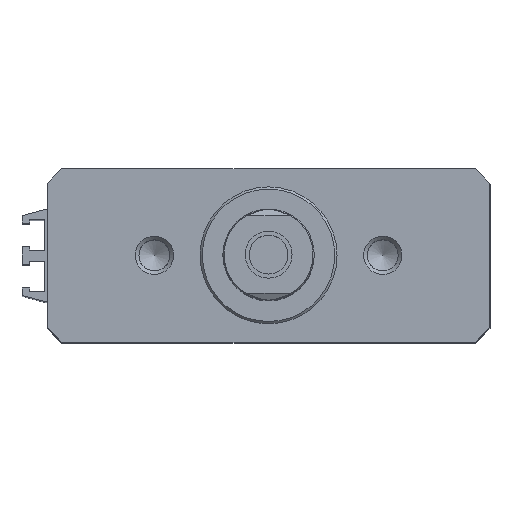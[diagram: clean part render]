
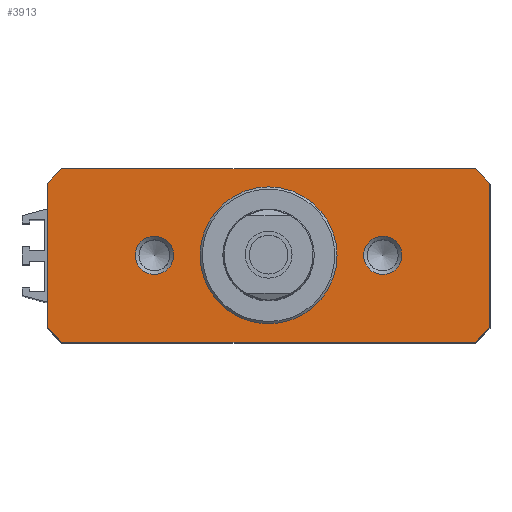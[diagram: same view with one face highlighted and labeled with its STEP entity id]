
A CAD part, top view. The second image highlights one B-rep face of the part: STEP entity #3913.
In plain terms, the highlighted planar face has unit normal (0, 0, 1) as drawn and (0, 0, -1) by its records, which use the part's own axes.
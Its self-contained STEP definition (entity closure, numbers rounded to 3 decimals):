
#2858=CARTESIAN_POINT('',(-15.,0.0,-10.5));
#2859=VERTEX_POINT('',#2858);
#2860=CARTESIAN_POINT('',(0.0,0.0,-10.5));
#2861=DIRECTION('',(0.0,0.0,1.0));
#2862=DIRECTION('',(-1.0,0.0,0.0));
#2863=AXIS2_PLACEMENT_3D('',#2860,#2861,#2862);
#2864=CIRCLE('',#2863,15.0);
#2865=EDGE_CURVE('',#2859,#2859,#2864,.T.);
#3323=CARTESIAN_POINT('',(20.8,0.0,-10.5));
#3324=VERTEX_POINT('',#3323);
#3325=CARTESIAN_POINT('',(25.0,0.0,-10.5));
#3326=DIRECTION('',(0.0,0.0,1.0));
#3327=DIRECTION('',(-1.0,0.0,0.0));
#3328=AXIS2_PLACEMENT_3D('',#3325,#3326,#3327);
#3329=CIRCLE('',#3328,4.2);
#3330=EDGE_CURVE('',#3324,#3324,#3329,.T.);
#3373=CARTESIAN_POINT('',(-29.2,0.0,-10.5));
#3374=VERTEX_POINT('',#3373);
#3375=CARTESIAN_POINT('',(-25.0,0.0,-10.5));
#3376=DIRECTION('',(0.0,0.0,1.0));
#3377=DIRECTION('',(-1.0,0.0,0.0));
#3378=AXIS2_PLACEMENT_3D('',#3375,#3376,#3377);
#3379=CIRCLE('',#3378,4.2);
#3380=EDGE_CURVE('',#3374,#3374,#3379,.T.);
#3684=CARTESIAN_POINT('',(45.3,19.0,-10.5));
#3685=VERTEX_POINT('',#3684);
#3686=CARTESIAN_POINT('',(-45.3,19.0,-10.5));
#3687=VERTEX_POINT('',#3686);
#3688=CARTESIAN_POINT('',(45.3,19.0,-10.5));
#3689=DIRECTION('',(-1.0,0.0,0.0));
#3690=VECTOR('',#3689,90.6);
#3691=LINE('',#3688,#3690);
#3692=EDGE_CURVE('',#3685,#3687,#3691,.T.);
#3721=CARTESIAN_POINT('',(-48.5,15.8,-10.5));
#3722=VERTEX_POINT('',#3721);
#3723=CARTESIAN_POINT('',(-45.3,19.0,-10.5));
#3724=DIRECTION('',(-0.707,-0.707,0.0));
#3725=VECTOR('',#3724,4.525);
#3726=LINE('',#3723,#3725);
#3727=EDGE_CURVE('',#3687,#3722,#3726,.T.);
#3745=CARTESIAN_POINT('',(-48.5,-15.8,-10.5));
#3746=VERTEX_POINT('',#3745);
#3747=CARTESIAN_POINT('',(-48.5,15.8,-10.5));
#3748=DIRECTION('',(0.0,-1.0,0.0));
#3749=VECTOR('',#3748,31.6);
#3750=LINE('',#3747,#3749);
#3751=EDGE_CURVE('',#3722,#3746,#3750,.T.);
#3772=CARTESIAN_POINT('',(-45.3,-19.0,-10.5));
#3773=VERTEX_POINT('',#3772);
#3774=CARTESIAN_POINT('',(-48.5,-15.8,-10.5));
#3775=DIRECTION('',(0.707,-0.707,0.0));
#3776=VECTOR('',#3775,4.525);
#3777=LINE('',#3774,#3776);
#3778=EDGE_CURVE('',#3746,#3773,#3777,.T.);
#3796=CARTESIAN_POINT('',(45.3,-19.0,-10.5));
#3797=VERTEX_POINT('',#3796);
#3798=CARTESIAN_POINT('',(-45.3,-19.0,-10.5));
#3799=DIRECTION('',(1.0,0.0,0.0));
#3800=VECTOR('',#3799,90.6);
#3801=LINE('',#3798,#3800);
#3802=EDGE_CURVE('',#3773,#3797,#3801,.T.);
#3826=CARTESIAN_POINT('',(48.5,-15.8,-10.5));
#3827=VERTEX_POINT('',#3826);
#3828=CARTESIAN_POINT('',(45.3,-19.0,-10.5));
#3829=DIRECTION('',(0.707,0.707,0.0));
#3830=VECTOR('',#3829,4.525);
#3831=LINE('',#3828,#3830);
#3832=EDGE_CURVE('',#3797,#3827,#3831,.T.);
#3850=CARTESIAN_POINT('',(48.5,15.8,-10.5));
#3851=VERTEX_POINT('',#3850);
#3852=CARTESIAN_POINT('',(48.5,-15.8,-10.5));
#3853=DIRECTION('',(0.0,1.0,0.0));
#3854=VECTOR('',#3853,31.6);
#3855=LINE('',#3852,#3854);
#3856=EDGE_CURVE('',#3827,#3851,#3855,.T.);
#3877=CARTESIAN_POINT('',(48.5,15.8,-10.5));
#3878=DIRECTION('',(-0.707,0.707,0.0));
#3879=VECTOR('',#3878,4.525);
#3880=LINE('',#3877,#3879);
#3881=EDGE_CURVE('',#3851,#3685,#3880,.T.);
#3889=CARTESIAN_POINT('',(0.,0.0,-10.5));
#3890=DIRECTION('',(0.0,0.0,1.0));
#3891=DIRECTION('',(1.0,0.0,0.0));
#3892=AXIS2_PLACEMENT_3D('',#3889,#3890,#3891);
#3893=PLANE('',#3892);
#3894=ORIENTED_EDGE('',*,*,#3692,.F.);
#3895=ORIENTED_EDGE('',*,*,#3881,.F.);
#3896=ORIENTED_EDGE('',*,*,#3856,.F.);
#3897=ORIENTED_EDGE('',*,*,#3832,.F.);
#3898=ORIENTED_EDGE('',*,*,#3802,.F.);
#3899=ORIENTED_EDGE('',*,*,#3778,.F.);
#3900=ORIENTED_EDGE('',*,*,#3751,.F.);
#3901=ORIENTED_EDGE('',*,*,#3727,.F.);
#3902=EDGE_LOOP('',(#3894,#3895,#3896,#3897,#3898,#3899,#3900,#3901));
#3903=FACE_OUTER_BOUND('',#3902,.T.);
#3904=ORIENTED_EDGE('',*,*,#2865,.T.);
#3905=EDGE_LOOP('',(#3904));
#3906=FACE_BOUND('',#3905,.T.);
#3907=ORIENTED_EDGE('',*,*,#3330,.T.);
#3908=EDGE_LOOP('',(#3907));
#3909=FACE_BOUND('',#3908,.T.);
#3910=ORIENTED_EDGE('',*,*,#3380,.T.);
#3911=EDGE_LOOP('',(#3910));
#3912=FACE_BOUND('',#3911,.T.);
#3913=ADVANCED_FACE('',(#3903,#3906,#3909,#3912),#3893,.F.);
